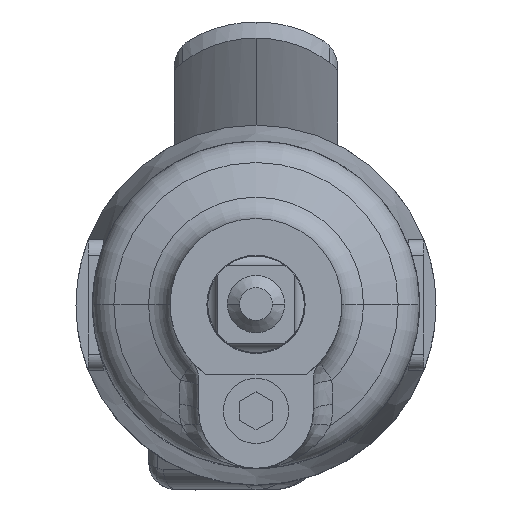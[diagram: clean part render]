
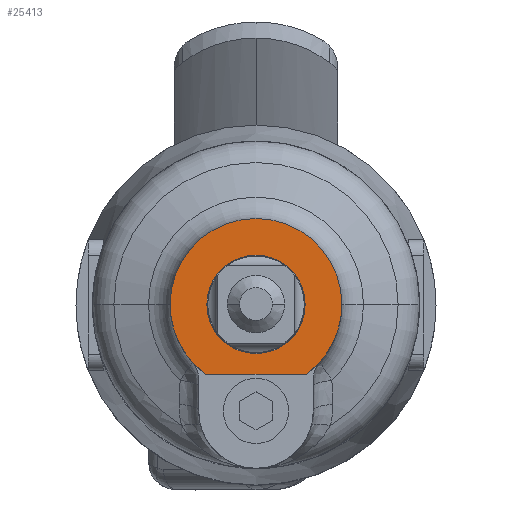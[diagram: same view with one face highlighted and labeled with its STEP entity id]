
A CAD part, top view. The second image highlights one B-rep face of the part: STEP entity #25413.
In plain terms, the highlighted planar face has unit normal (0, 0, 1).
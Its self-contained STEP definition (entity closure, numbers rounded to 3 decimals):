
#19964 = CARTESIAN_POINT ( 'NONE',  ( 0., 0., 0. ) ) ;
#19965 = CIRCLE ( 'NONE', #20108, 6. ) ;
#20001 = CARTESIAN_POINT ( 'NONE',  ( 6., 0., 0. ) ) ;
#20003 = CARTESIAN_POINT ( 'NONE',  ( -6., 0., 0. ) ) ;
#20105 = DIRECTION ( 'NONE',  ( 1., 0., 0. ) ) ;
#20107 = DIRECTION ( 'NONE',  ( 0., 0., 1. ) ) ;
#20108 = AXIS2_PLACEMENT_3D ( 'NONE', #19964, #20107, #20105 ) ;
#20503 = CARTESIAN_POINT ( 'NONE',  ( 10.5, 0., 0. ) ) ;
#20505 = DIRECTION ( 'NONE',  ( 1., 0., 0. ) ) ;
#20507 = DIRECTION ( 'NONE',  ( 0., 0., 1. ) ) ;
#20509 = CARTESIAN_POINT ( 'NONE',  ( 0., 0., 0. ) ) ;
#20510 = AXIS2_PLACEMENT_3D ( 'NONE', #20509, #20507, #20505 ) ;
#20512 = CIRCLE ( 'NONE', #20510, 10.5 ) ;
#20518 = CARTESIAN_POINT ( 'NONE',  ( -10.5, 0., 0. ) ) ;
#20528 = DIRECTION ( 'NONE',  ( -1., 0., 0. ) ) ;
#20530 = DIRECTION ( 'NONE',  ( 0., 0., -1. ) ) ;
#20532 = CARTESIAN_POINT ( 'NONE',  ( 0., 0., 0. ) ) ;
#20534 = AXIS2_PLACEMENT_3D ( 'NONE', #20532, #20530, #20528 ) ;
#20536 = PLANE ( 'NONE',  #20534 ) ;
#20541 = FACE_BOUND ( 'NONE', #25550, .T. ) ;
#20542 = FACE_OUTER_BOUND ( 'NONE', #25417, .T. ) ;
#20885 = DIRECTION ( 'NONE',  ( 0., 0., 1. ) ) ;
#20887 = CARTESIAN_POINT ( 'NONE',  ( 0., 0., 0. ) ) ;
#20888 = AXIS2_PLACEMENT_3D ( 'NONE', #20887, #20885, #21046 ) ;
#20890 = CIRCLE ( 'NONE', #20888, 6. ) ;
#20896 = DIRECTION ( 'NONE',  ( -1., 0., 0. ) ) ;
#20897 = VECTOR ( 'NONE', #20896, 1000. ) ;
#20899 = CARTESIAN_POINT ( 'NONE',  ( -6.164, -8.5, 0. ) ) ;
#20901 = LINE ( 'NONE', #20899, #20897 ) ;
#20905 = CARTESIAN_POINT ( 'NONE',  ( -6.164, -8.5, 0. ) ) ;
#20907 = DIRECTION ( 'NONE',  ( 1., 0., 0. ) ) ;
#20909 = DIRECTION ( 'NONE',  ( 0., 0., 1. ) ) ;
#20911 = CARTESIAN_POINT ( 'NONE',  ( 0., 0., 0. ) ) ;
#20913 = AXIS2_PLACEMENT_3D ( 'NONE', #20911, #20909, #20907 ) ;
#20953 = CIRCLE ( 'NONE', #20913, 10.5 ) ;
#21013 = CARTESIAN_POINT ( 'NONE',  ( 6.164, -8.5, 0. ) ) ;
#21015 = DIRECTION ( 'NONE',  ( 1., 0., 0. ) ) ;
#21017 = DIRECTION ( 'NONE',  ( 0., 0., 1. ) ) ;
#21019 = CARTESIAN_POINT ( 'NONE',  ( 0., 0., 0. ) ) ;
#21021 = AXIS2_PLACEMENT_3D ( 'NONE', #21019, #21017, #21015 ) ;
#21022 = CIRCLE ( 'NONE', #21021, 10.5 ) ;
#21046 = DIRECTION ( 'NONE',  ( 1., 0., 0. ) ) ;
#25220 = VERTEX_POINT ( 'NONE', #20003 ) ;
#25221 = VERTEX_POINT ( 'NONE', #20001 ) ;
#25234 = EDGE_CURVE ( 'NONE', #25220, #25221, #19965, .T. ) ;
#25413 = ADVANCED_FACE ( 'NONE', ( #20542, #20541 ), #20536, .F. ) ;
#25417 = EDGE_LOOP ( 'NONE', ( #25535, #25537, #25539, #25545 ) ) ;
#25425 = VERTEX_POINT ( 'NONE', #20518 ) ;
#25428 = EDGE_CURVE ( 'NONE', #25430, #25425, #20512, .T. ) ;
#25430 = VERTEX_POINT ( 'NONE', #20503 ) ;
#25535 = ORIENTED_EDGE ( 'NONE', *, *, #25570, .T. ) ;
#25537 = ORIENTED_EDGE ( 'NONE', *, *, #25428, .T. ) ;
#25539 = ORIENTED_EDGE ( 'NONE', *, *, #25541, .T. ) ;
#25541 = EDGE_CURVE ( 'NONE', #25425, #25543, #20953, .T. ) ;
#25543 = VERTEX_POINT ( 'NONE', #20905 ) ;
#25545 = ORIENTED_EDGE ( 'NONE', *, *, #25547, .F. ) ;
#25547 = EDGE_CURVE ( 'NONE', #25572, #25543, #20901, .T. ) ;
#25550 = EDGE_LOOP ( 'NONE', ( #25552, #25556 ) ) ;
#25552 = ORIENTED_EDGE ( 'NONE', *, *, #25554, .F. ) ;
#25554 = EDGE_CURVE ( 'NONE', #25221, #25220, #20890, .T. ) ;
#25556 = ORIENTED_EDGE ( 'NONE', *, *, #25234, .F. ) ;
#25570 = EDGE_CURVE ( 'NONE', #25572, #25430, #21022, .T. ) ;
#25572 = VERTEX_POINT ( 'NONE', #21013 ) ;
